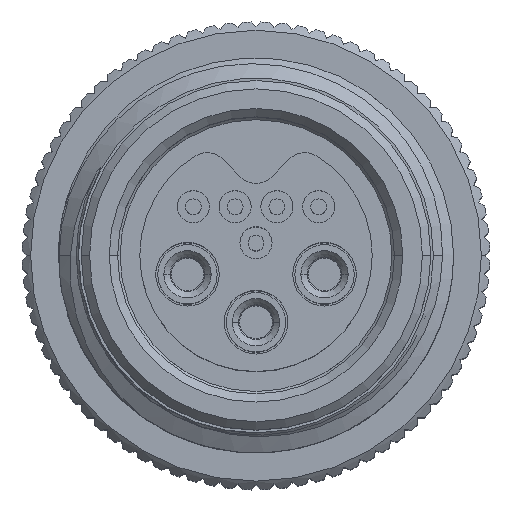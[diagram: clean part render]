
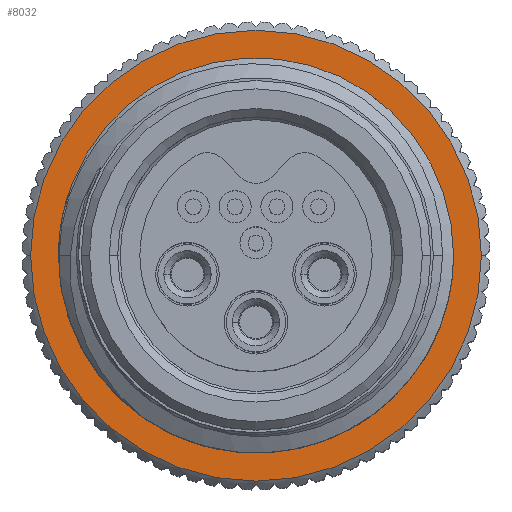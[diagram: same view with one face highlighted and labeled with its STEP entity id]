
A CAD part, top view. The second image highlights one B-rep face of the part: STEP entity #8032.
In plain terms, the highlighted planar face has unit normal (0, 0, 1).
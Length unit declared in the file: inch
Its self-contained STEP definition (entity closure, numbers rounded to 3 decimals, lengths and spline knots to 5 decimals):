
#265 = FACE_BOUND ( 'NONE', #11933, .T. ) ;
#753 = ORIENTED_EDGE ( 'NONE', *, *, #6242, .T. ) ;
#1211 = DIRECTION ( 'NONE',  ( -1., 0., 0. ) ) ;
#2980 = AXIS2_PLACEMENT_3D ( 'NONE', #8756, #14907, #6194 ) ;
#3285 = VERTEX_POINT ( 'NONE', #13297 ) ;
#3517 = CARTESIAN_POINT ( 'NONE',  ( 0., 0., 0.048 ) ) ;
#3740 = CARTESIAN_POINT ( 'NONE',  ( -0.2695, 0., 0.048 ) ) ;
#3850 = DIRECTION ( 'NONE',  ( -1., 0., 0. ) ) ;
#4277 = EDGE_CURVE ( 'NONE', #14742, #3285, #15041, .T. ) ;
#4620 = DIRECTION ( 'NONE',  ( 0., 0., -1. ) ) ;
#4776 = DIRECTION ( 'NONE',  ( -1., 0., 0. ) ) ;
#5614 = DIRECTION ( 'NONE',  ( -1., 0., 0. ) ) ;
#6030 = VERTEX_POINT ( 'NONE', #3740 ) ;
#6194 = DIRECTION ( 'NONE',  ( -1., 0., 0. ) ) ;
#6242 = EDGE_CURVE ( 'NONE', #6030, #12929, #11324, .T. ) ;
#6439 = AXIS2_PLACEMENT_3D ( 'NONE', #10087, #14940, #1211 ) ;
#7735 = CIRCLE ( 'NONE', #2980, 0.2 ) ;
#7967 = ORIENTED_EDGE ( 'NONE', *, *, #4277, .T. ) ;
#8032 = ADVANCED_FACE ( 'NONE', ( #13240, #265 ), #13753, .F. ) ;
#8170 = CARTESIAN_POINT ( 'NONE',  ( 0.2695, 0., 0.048 ) ) ;
#8716 = EDGE_CURVE ( 'NONE', #3285, #14742, #7735, .T. ) ;
#8756 = CARTESIAN_POINT ( 'NONE',  ( 0., 0., 0.048 ) ) ;
#9718 = AXIS2_PLACEMENT_3D ( 'NONE', #3517, #4620, #4776 ) ;
#9893 = CARTESIAN_POINT ( 'NONE',  ( 0., 0., 0.048 ) ) ;
#10087 = CARTESIAN_POINT ( 'NONE',  ( 0., 0., 0.048 ) ) ;
#11324 = CIRCLE ( 'NONE', #12340, 0.2695 ) ;
#11409 = CIRCLE ( 'NONE', #13434, 0.2695 ) ;
#11933 = EDGE_LOOP ( 'NONE', ( #7967, #12321 ) ) ;
#12321 = ORIENTED_EDGE ( 'NONE', *, *, #8716, .T. ) ;
#12340 = AXIS2_PLACEMENT_3D ( 'NONE', #13192, #14260, #5614 ) ;
#12920 = ORIENTED_EDGE ( 'NONE', *, *, #14970, .T. ) ;
#12929 = VERTEX_POINT ( 'NONE', #8170 ) ;
#13192 = CARTESIAN_POINT ( 'NONE',  ( 0., 0., 0.048 ) ) ;
#13240 = FACE_OUTER_BOUND ( 'NONE', #14750, .T. ) ;
#13297 = CARTESIAN_POINT ( 'NONE',  ( -0.2, 0., 0.048 ) ) ;
#13434 = AXIS2_PLACEMENT_3D ( 'NONE', #9893, #13716, #3850 ) ;
#13614 = CARTESIAN_POINT ( 'NONE',  ( 0.2, 0., 0.048 ) ) ;
#13716 = DIRECTION ( 'NONE',  ( 0., 0., 1. ) ) ;
#13753 = PLANE ( 'NONE',  #6439 ) ;
#14260 = DIRECTION ( 'NONE',  ( 0., 0., 1. ) ) ;
#14742 = VERTEX_POINT ( 'NONE', #13614 ) ;
#14750 = EDGE_LOOP ( 'NONE', ( #753, #12920 ) ) ;
#14907 = DIRECTION ( 'NONE',  ( 0., 0., -1. ) ) ;
#14940 = DIRECTION ( 'NONE',  ( 0., 0., -1. ) ) ;
#14970 = EDGE_CURVE ( 'NONE', #12929, #6030, #11409, .T. ) ;
#15041 = CIRCLE ( 'NONE', #9718, 0.2 ) ;
